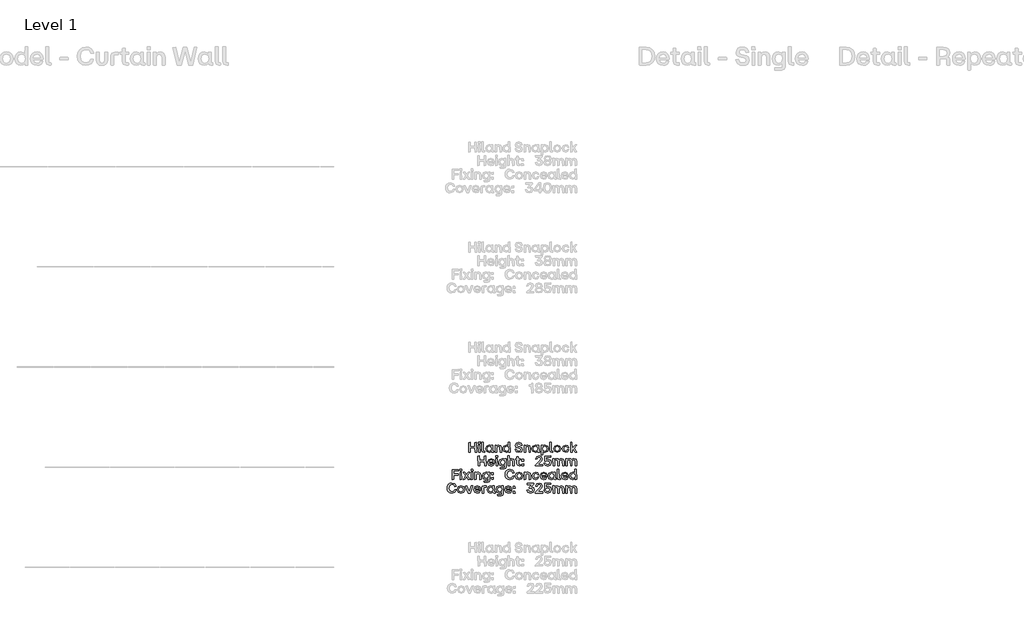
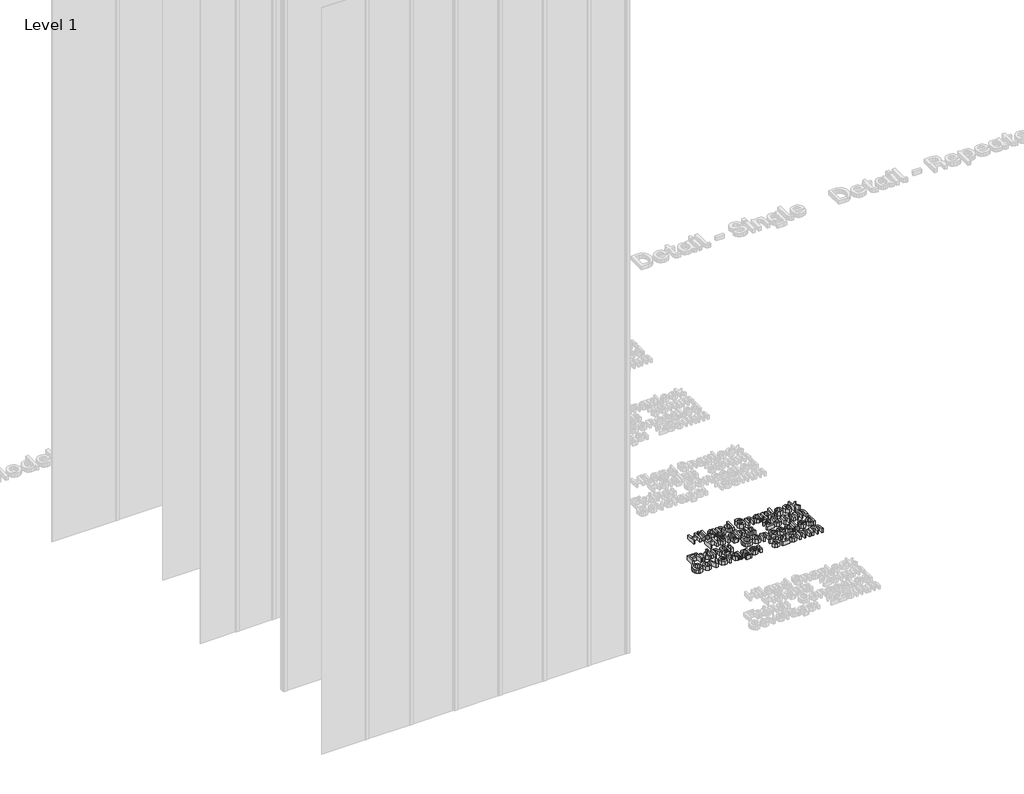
# One storey, part 18 of 64: 1 proxy.
"""IFC4 building model written with IfcOpenShell, lengths in millimetres."""

from ifc_helpers import new_model, si_unit, origin, origin_with_axes, place, context, project, spatial, polyline, outline, extrude, element, save

model = new_model("IFC4")

# Units and contexts
model_context = context("Model", 3, world=origin())
ifc_project = project(units=[si_unit("LENGTHUNIT", "METRE", prefix="MILLI")], contexts=[model_context])

# Site, building, storey
site = spatial("IfcSite", under=ifc_project)
building = spatial("IfcBuilding", under=site)
storey = spatial("IfcBuildingStorey", under=building, Name="Level 1", Elevation=0.0)

# Proxy
placement = place(None, origin())
element("IfcBuildingElementProxy", 1, Name="50mm", ObjectType="50mm", at=placement, inside=storey, context=model_context, shape_type="SweptSolid", body=[
    extrude(outline(polyline([(2488.8278866, -8433.5188866), (2488.1305548, -8411.5808277), (2464.2818068, -8411.5808277), (2464.2818068, -8432.8215548), (2456.7785164, -8433.5188866), (2456.0532913, -8384.2454206), (2463.542635, -8383.5201955), (2464.2818068, -8404.6075096), (2488.1305548, -8404.6075096), (2488.1305548, -8384.2454206), (2495.6198985, -8383.5201955), (2496.3172303, -8432.8215548), (2488.8278866, -8433.5188866)])), origin_with_axes(), (0.0, 0.0, 1.0), 20.0),
    extrude(outline(polyline([(2506.414595, -8433.5188866), (2505.6893699, -8397.8154977), (2512.8997809, -8397.1181659), (2513.5971127, -8432.8215548), (2506.414595, -8433.5188866)])), origin_with_axes(), (0.0, 0.0, 1.0), 20.0),
    extrude(outline(polyline([(2505.4801704, -8390.4516737), (2505.1315045, -8382.4044646), (2513.5273795, -8381.6652929), (2514.2665512, -8390.1030078), (2505.4801704, -8390.4516737)])), origin_with_axes(), (0.0, 0.0, 1.0), 20.0),
    extrude(outline(polyline([(2532.9968838, -8433.5188866), (2525.2983405, -8430.8690257), (2522.6484796, -8423.1565359), (2522.6484796, -8382.8228637), (2529.8588906, -8382.083692), (2530.5562224, -8427.2429003), (2537.2227146, -8427.2429003), (2537.9200464, -8432.8215548), (2532.9968838, -8433.5188866)])), origin_with_axes(), (0.0, 0.0, 1.0), 20.0),
    extrude(outline(polyline([(2558.0868825, -8433.9372857), (2546.3159214, -8428.8955767), (2541.9366776, -8415.3882594), (2546.3159214, -8401.7484491), (2558.0868825, -8396.6579269), (2564.7045614, -8398.2617901), (2569.6904839, -8402.6549805), (2570.0112565, -8397.8154977), (2577.1937742, -8397.1181659), (2577.9189993, -8427.2429003), (2581.8658973, -8427.2429003), (2582.5632291, -8432.8215548), (2576.5661755, -8433.5188866), (2571.9114857, -8432.2113895), (2570.3599224, -8428.288898), (2565.0044141, -8432.3334225), (2558.0868825, -8433.9372857)]), holes=[polyline([(2549.9978334, -8415.3882594), (2552.7522941, -8424.2792401), (2560.2765044, -8427.521833), (2567.6403283, -8424.2931867), (2570.2901892, -8415.3882594), (2567.6194084, -8406.392679), (2560.2765044, -8403.1152195), (2552.7522941, -8406.392679), (2549.9978334, -8415.3882594)])]), origin_with_axes(), (0.0, 0.0, 1.0), 20.0),
    extrude(outline(polyline([(2589.4249742, -8433.5188866), (2588.6997491, -8397.8154977), (2595.5614942, -8397.1181659), (2596.258826, -8402.6549805), (2601.4225681, -8398.1571903), (2608.0437337, -8396.6579269), (2617.6041528, -8400.8419178), (2620.916479, -8413.0870644), (2620.916479, -8432.8215548), (2613.6921214, -8433.5188866), (2612.9668963, -8413.0870644), (2611.0143672, -8405.7092939), (2604.8429806, -8403.3941522), (2598.6158075, -8405.7441604), (2596.6074919, -8413.0870644), (2596.6074919, -8432.8215548), (2589.4249742, -8433.5188866)])), origin_with_axes(), (0.0, 0.0, 1.0), 20.0),
    extrude(outline(polyline([(2643.7750158, -8433.9372857), (2632.0040548, -8428.8955767), (2627.624811, -8415.3882594), (2632.0040548, -8401.7484491), (2643.7750158, -8396.6579269), (2650.3926948, -8398.2617901), (2655.3786172, -8402.6549805), (2655.6993899, -8382.8228637), (2662.8819076, -8382.083692), (2663.6071326, -8432.8215548), (2656.7453876, -8433.5188866), (2656.0480558, -8428.0099653), (2650.6925474, -8432.3334225), (2643.7750158, -8433.9372857)]), holes=[polyline([(2635.6859668, -8415.3882594), (2638.4404275, -8424.2792401), (2645.9646377, -8427.521833), (2653.3284617, -8424.2931867), (2655.9783226, -8415.3882594), (2653.3075417, -8406.392679), (2645.9646377, -8403.1152195), (2638.4404275, -8406.392679), (2635.6859668, -8415.3882594)])]), origin_with_axes(), (0.0, 0.0, 1.0), 20.0),
    extrude(outline(polyline([(2707.7621831, -8433.9372857), (2694.1781594, -8429.823028), (2688.1950524, -8418.1078535), (2695.5588764, -8417.2989486), (2699.7219473, -8424.9417053), (2707.7621831, -8427.1034339), (2714.7145813, -8425.1160383), (2717.2040559, -8419.6001436), (2715.4816463, -8415.0186736), (2709.7147122, -8412.7383985), (2703.1179533, -8411.5808277), (2692.6370561, -8406.8180514), (2689.1434237, -8397.4668318), (2693.6202939, -8386.9022548), (2706.1164801, -8383.1017964), (2718.7102926, -8386.951068), (2724.3168404, -8397.8154977), (2716.9948564, -8398.610456), (2712.9712518, -8391.8672573), (2706.1164801, -8389.9635415), (2699.582481, -8391.706871), (2697.3300992, -8396.7973933), (2699.3384148, -8401.6299027), (2705.6283478, -8404.1612172), (2712.1832668, -8405.3048414), (2722.2806315, -8409.8932847), (2725.4046781, -8419.4606772), (2720.7116349, -8430.1019607), (2707.7621831, -8433.9372857)])), origin_with_axes(), (0.0, 0.0, 1.0), 20.0),
    extrude(outline(polyline([(2734.0236993, -8433.5188866), (2733.2984742, -8397.8154977), (2740.1602192, -8397.1181659), (2740.8575511, -8402.6549805), (2746.0212931, -8398.1571903), (2752.6424587, -8396.6579269), (2762.2028779, -8400.8419178), (2765.515204, -8413.0870644), (2765.515204, -8432.8215548), (2758.2908464, -8433.5188866), (2757.5656213, -8413.0870644), (2755.6130923, -8405.7092939), (2749.4417057, -8403.3941522), (2743.2145326, -8405.7441604), (2741.206217, -8413.0870644), (2741.206217, -8432.8215548), (2734.0236993, -8433.5188866)])), origin_with_axes(), (0.0, 0.0, 1.0), 20.0),
    extrude(outline(polyline([(2788.3737409, -8433.9372857), (2776.6027799, -8428.8955767), (2772.2235361, -8415.3882594), (2776.6027799, -8401.7484491), (2788.3737409, -8396.6579269), (2794.9914198, -8398.2617901), (2799.9773423, -8402.6549805), (2800.2981149, -8397.8154977), (2807.4806326, -8397.1181659), (2808.2058577, -8427.2429003), (2812.1527558, -8427.2429003), (2812.8500876, -8432.8215548), (2806.853034, -8433.5188866), (2802.1983441, -8432.2113895), (2800.6467808, -8428.288898), (2795.2912725, -8432.3334225), (2788.3737409, -8433.9372857)]), holes=[polyline([(2780.2846919, -8415.3882594), (2783.0391525, -8424.2792401), (2790.5633628, -8427.521833), (2797.9271868, -8424.2931867), (2800.5770477, -8415.3882594), (2797.9062668, -8406.392679), (2790.5633628, -8403.1152195), (2783.0391525, -8406.392679), (2780.2846919, -8415.3882594)])]), origin_with_axes(), (0.0, 0.0, 1.0), 20.0),
    extrude(outline(polyline([(2819.7118327, -8447.0750171), (2818.9866076, -8397.8154977), (2825.8483526, -8397.1181659), (2826.5456844, -8402.5852473), (2831.9011928, -8398.2617901), (2838.8187244, -8396.6579269), (2850.5896854, -8401.7135826), (2854.9689292, -8415.2487931), (2850.5896854, -8428.8607101), (2838.8187244, -8433.9372857), (2832.2010455, -8432.3334225), (2827.215123, -8427.9402321), (2826.8943503, -8446.3776853), (2819.7118327, -8447.0750171)]), holes=[polyline([(2826.6154176, -8415.2487931), (2829.2861985, -8424.2443735), (2836.6291025, -8427.521833), (2844.1533128, -8424.2443735), (2846.9077734, -8415.2487931), (2844.1533128, -8406.3578124), (2836.6291025, -8403.1152195), (2829.2652785, -8406.3368925), (2826.6154176, -8415.2487931)])]), origin_with_axes(), (0.0, 0.0, 1.0), 20.0),
    extrude(outline(polyline([(2872.1790784, -8433.5188866), (2864.4805352, -8430.8690257), (2861.8306743, -8423.1565359), (2861.8306743, -8382.8228637), (2869.0410852, -8382.083692), (2869.738417, -8427.2429003), (2876.4049092, -8427.2429003), (2877.102241, -8432.8215548), (2872.1790784, -8433.5188866)])), origin_with_axes(), (0.0, 0.0, 1.0), 20.0),
    extrude(outline(polyline([(2899.3192326, -8433.9372857), (2886.1605813, -8428.8118969), (2881.1188722, -8415.3882594), (2886.1745279, -8401.8530489), (2899.3192326, -8396.6579269), (2912.589457, -8401.8530489), (2917.6590593, -8415.3882594), (2912.589457, -8428.8118969), (2899.3192326, -8433.9372857)]), holes=[polyline([(2889.180028, -8415.3882594), (2891.8787021, -8424.2931867), (2899.3192326, -8427.521833), (2906.8573895, -8424.2792401), (2909.6118502, -8415.3882594), (2906.8713362, -8406.392679), (2899.3192326, -8403.1152195), (2891.8787021, -8406.392679), (2889.180028, -8415.3882594)])]), origin_with_axes(), (0.0, 0.0, 1.0), 20.0),
    extrude(outline(polyline([(2941.4101809, -8433.9372857), (2928.0771966, -8428.8955767), (2923.0703542, -8415.3882594), (2928.1469298, -8401.8530489), (2941.4101809, -8396.6579269), (2952.4838102, -8400.0957727), (2957.6998521, -8409.1820063), (2950.6846941, -8409.9490713), (2947.1143552, -8404.6493495), (2941.4101809, -8403.1152195), (2933.8511041, -8406.392679), (2931.13151, -8415.3882594), (2933.8650507, -8424.3141067), (2941.4101809, -8427.521833), (2947.2886881, -8426.0574362), (2950.266295, -8421.3155799), (2957.3511862, -8420.6461413), (2952.6930097, -8430.4994399), (2941.4101809, -8433.9372857)])), origin_with_axes(), (0.0, 0.0, 1.0), 20.0),
    extrude(outline(polyline([(2966.0957272, -8433.5188866), (2965.3705021, -8382.8228637), (2972.5809131, -8382.083692), (2973.2782449, -8412.8778649), (2988.5219183, -8397.4668318), (2996.4296611, -8397.1181659), (2983.7103288, -8412.0410667), (2997.7964315, -8432.6402485), (2990.1536748, -8433.5188866), (2978.4385003, -8417.2292154), (2973.2782449, -8422.2918444), (2973.2782449, -8432.8215548), (2966.0957272, -8433.5188866)])), origin_with_axes(), (0.0, 0.0, 1.0), 20.0),
    extrude(outline(polyline([(2536.1348769, -8501.3705811), (2535.4375451, -8479.4325222), (2511.5887971, -8479.4325222), (2511.5887971, -8500.6732493), (2504.0855067, -8501.3705811), (2503.3602816, -8452.0971151), (2510.8496253, -8451.37189), (2511.5887971, -8472.459204), (2535.4375451, -8472.459204), (2535.4375451, -8452.0971151), (2542.9268888, -8451.37189), (2543.6242206, -8500.6732493), (2536.1348769, -8501.3705811)])), origin_with_axes(), (0.0, 0.0, 1.0), 20.0),
    extrude(outline(polyline([(2569.2720848, -8501.7889802), (2555.8693673, -8496.7472711), (2550.8625249, -8483.2399539), (2555.8484473, -8469.586197), (2569.2720848, -8464.5096214), (2581.552098, -8469.5164638), (2586.0498882, -8483.1702207), (2586.0498882, -8485.0809099), (2558.9934138, -8485.8200816), (2562.0616738, -8492.8631329), (2569.2720848, -8495.3735275), (2575.0599388, -8494.0974102), (2578.0584656, -8490.520098), (2585.1433569, -8489.9343393), (2580.4851803, -8498.6998002), (2569.2720848, -8501.7889802)]), holes=[polyline([(2559.063147, -8480.0322275), (2578.2676652, -8480.0322275), (2575.6247776, -8473.3866554), (2569.2720848, -8470.966914), (2562.1802202, -8473.2681089), (2559.063147, -8480.0322275)])]), origin_with_axes(), (0.0, 0.0, 1.0), 20.0),
    extrude(outline(polyline([(2592.9534732, -8458.3033682), (2592.6048073, -8450.2561591), (2601.0006823, -8449.5169873), (2601.7398541, -8457.9547023), (2592.9534732, -8458.3033682)])), origin_with_axes(), (0.0, 0.0, 1.0), 20.0),
    extrude(outline(polyline([(2593.8878978, -8501.3705811), (2593.1626727, -8465.6671922), (2600.3730837, -8464.9698603), (2601.0704155, -8500.6732493), (2593.8878978, -8501.3705811)])), origin_with_axes(), (0.0, 0.0, 1.0), 20.0),
    extrude(outline(polyline([(2615.5609706, -8514.9267115), (2614.8217989, -8509.348057), (2636.062526, -8508.6507252), (2636.062526, -8495.7919266), (2630.7558309, -8500.185117), (2624.1381519, -8501.7889802), (2612.3671909, -8496.7124045), (2607.9879471, -8483.1004875), (2612.3671909, -8469.565277), (2624.1381519, -8464.5096214), (2631.0556835, -8466.1134845), (2636.1322591, -8470.4369418), (2636.4111919, -8465.6671922), (2643.2450437, -8464.9698603), (2643.9702687, -8504.9269733), (2641.390141, -8512.3675038), (2633.9705305, -8514.9267115), (2615.5609706, -8514.9267115)]), holes=[polyline([(2616.0491029, -8483.1004875), (2618.8035636, -8492.0960679), (2626.3277738, -8495.3735275), (2633.6706778, -8492.0960679), (2636.3414587, -8483.1004875), (2633.6915978, -8474.1885869), (2626.3277738, -8470.966914), (2618.8035636, -8474.2095069), (2616.0491029, -8483.1004875)])]), origin_with_axes(), (0.0, 0.0, 1.0), 20.0),
    extrude(outline(polyline([(2653.6910742, -8501.3705811), (2652.9658492, -8450.6745581), (2660.1762601, -8449.9353864), (2660.8735919, -8470.2277422), (2665.9606275, -8465.9391516), (2672.3098337, -8464.5096214), (2681.8702529, -8468.6936122), (2685.182579, -8480.9387589), (2685.182579, -8500.6732493), (2677.9582214, -8501.3705811), (2677.2329963, -8480.9387589), (2675.2804672, -8473.5609883), (2669.1090807, -8471.2458467), (2662.8819076, -8473.5958549), (2660.8735919, -8480.9387589), (2660.8735919, -8500.6732493), (2653.6910742, -8501.3705811)])), origin_with_axes(), (0.0, 0.0, 1.0), 20.0),
    extrude(outline(polyline([(2708.459515, -8501.3705811), (2700.7470251, -8498.7207202), (2698.0971642, -8491.0082303), (2698.0971642, -8471.2458467), (2691.890911, -8471.2458467), (2691.165686, -8465.6671922), (2698.0971642, -8464.9698603), (2698.0971642, -8454.9561755), (2705.3215218, -8454.2309504), (2706.0188536, -8464.9698603), (2714.8052345, -8464.9698603), (2715.5304596, -8470.506675), (2706.0188536, -8471.2458467), (2706.0188536, -8495.0945947), (2714.8052345, -8495.0945947), (2715.5304596, -8500.6732493), (2708.459515, -8501.3705811)])), origin_with_axes(), (0.0, 0.0, 1.0), 20.0),
    extrude(outline(polyline([(2722.9361234, -8477.7310326), (2722.2387916, -8468.1078535), (2731.7225043, -8467.3686818), (2732.4477294, -8477.0337007), (2722.9361234, -8477.7310326)])), origin_with_axes(), (0.0, 0.0, 1.0), 20.0),
    extrude(outline(polyline([(2722.5874575, -8501.0219152), (2722.2387916, -8491.747402), (2731.7225043, -8491.0082303), (2732.4477294, -8500.6732493), (2722.5874575, -8501.0219152)])), origin_with_axes(), (0.0, 0.0, 1.0), 20.0),
    extrude(outline(polyline([(2790.4238964, -8501.3705811), (2789.6986714, -8496.5868848), (2807.0622335, -8480.590093), (2814.2098846, -8472.6753769), (2816.1972803, -8465.3882594), (2814.216858, -8459.7084918), (2808.2755909, -8457.8152359), (2801.4068725, -8459.8932847), (2798.5547854, -8466.4621504), (2791.1212283, -8467.1594822), (2795.7096716, -8454.9631488), (2808.2755909, -8450.9534909), (2820.1023385, -8454.8236824), (2824.4257957, -8465.3882594), (2821.7410682, -8475.1648515), (2812.5711549, -8485.5690422), (2803.1153355, -8494.0764903), (2825.8483526, -8494.355423), (2826.5456844, -8500.6732493), (2790.4238964, -8501.3705811)])), origin_with_axes(), (0.0, 0.0, 1.0), 20.0),
    extrude(outline(polyline([(2851.8030428, -8501.7889802), (2838.6025515, -8498.0931215), (2832.7937775, -8487.3821049), (2840.1576015, -8486.5871466), (2844.365999, -8493.0200326), (2851.8030428, -8494.9551284), (2859.2087066, -8492.2704009), (2861.802781, -8484.6625108), (2859.2226533, -8477.3614467), (2851.6635764, -8474.8719721), (2841.3012256, -8478.8049235), (2836.4617428, -8478.5259908), (2837.5077406, -8452.0971151), (2867.1443427, -8451.37189), (2867.8695678, -8457.6757696), (2844.1602861, -8458.3731014), (2843.3653278, -8471.0366471), (2848.5395299, -8468.8400519), (2854.2437041, -8468.0381203), (2865.7984923, -8472.4661774), (2870.0034031, -8484.6625108), (2865.1918136, -8497.27027), (2851.8030428, -8501.7889802)])), origin_with_axes(), (0.0, 0.0, 1.0), 20.0),
    extrude(outline(polyline([(2878.6224244, -8501.3705811), (2877.8971993, -8465.6671922), (2884.7589443, -8464.9698603), (2885.4562761, -8470.506675), (2890.4421986, -8466.0088848), (2896.8925179, -8464.5096214), (2903.1789642, -8466.0088848), (2907.394335, -8470.506675), (2913.2170557, -8466.0646713), (2920.4623332, -8464.5096214), (2929.7368464, -8468.6796656), (2932.9445727, -8480.9387589), (2932.9445727, -8500.6732493), (2925.7341617, -8501.3705811), (2925.0368299, -8480.9387589), (2923.154034, -8473.5609883), (2917.1848737, -8471.2458467), (2911.2784732, -8473.5958549), (2909.3747574, -8480.9387589), (2909.3747574, -8500.6732493), (2902.1643464, -8501.3705811), (2901.4670146, -8480.9387589), (2899.5981653, -8473.5609883), (2893.6847915, -8471.2458467), (2887.7086579, -8473.5958549), (2885.804942, -8480.9387589), (2885.804942, -8500.6732493), (2878.6224244, -8501.3705811)])), origin_with_axes(), (0.0, 0.0, 1.0), 20.0),
    extrude(outline(polyline([(2941.9959397, -8501.3705811), (2941.2707146, -8465.6671922), (2948.1324596, -8464.9698603), (2948.8297914, -8470.506675), (2953.8157139, -8466.0088848), (2960.2660332, -8464.5096214), (2966.5524795, -8466.0088848), (2970.7678503, -8470.506675), (2976.590571, -8466.0646713), (2983.8358485, -8464.5096214), (2993.1103617, -8468.6796656), (2996.318088, -8480.9387589), (2996.318088, -8500.6732493), (2989.1076771, -8501.3705811), (2988.4103452, -8480.9387589), (2986.5275493, -8473.5609883), (2980.558389, -8471.2458467), (2974.6519885, -8473.5958549), (2972.7482727, -8480.9387589), (2972.7482727, -8500.6732493), (2965.5378617, -8501.3705811), (2964.8405299, -8480.9387589), (2962.9716806, -8473.5609883), (2957.0583069, -8471.2458467), (2951.0821732, -8473.5958549), (2949.1784574, -8480.9387589), (2949.1784574, -8500.6732493), (2941.9959397, -8501.3705811)])), origin_with_axes(), (0.0, 0.0, 1.0), 20.0),
    extrude(outline(polyline([(2374.6607219, -8569.2222755), (2373.9354969, -8519.9488095), (2405.5246281, -8519.2235844), (2406.2219599, -8525.527464), (2382.1640123, -8526.2247958), (2382.1640123, -8541.287163), (2404.0881245, -8541.287163), (2404.7854563, -8547.5631494), (2382.1640123, -8548.3023211), (2382.1640123, -8568.5249437), (2374.6607219, -8569.2222755)])), origin_with_axes(), (0.0, 0.0, 1.0), 20.0),
    extrude(outline(polyline([(2414.4783686, -8569.2222755), (2413.7531435, -8533.5188866), (2420.9635544, -8532.8215548), (2421.6608863, -8568.5249437), (2414.4783686, -8569.2222755)])), origin_with_axes(), (0.0, 0.0, 1.0), 20.0),
    extrude(outline(polyline([(2413.5439439, -8526.1550627), (2413.195278, -8518.1078535), (2421.5911531, -8517.3686818), (2422.3303248, -8525.8063967), (2413.5439439, -8526.1550627)])), origin_with_axes(), (0.0, 0.0, 1.0), 20.0),
    extrude(outline(polyline([(2428.5784179, -8569.2222755), (2441.3395901, -8550.7429824), (2429.1362833, -8533.658353), (2437.1277059, -8532.8215548), (2445.9140868, -8544.815662), (2454.1426022, -8533.2399539), (2462.2595445, -8532.8215548), (2450.6559431, -8549.9340775), (2463.696048, -8568.3436374), (2455.7046254, -8569.2222755), (2445.9838199, -8555.7916648), (2436.7093068, -8568.8038764), (2428.5784179, -8569.2222755)])), origin_with_axes(), (0.0, 0.0, 1.0), 20.0),
    extrude(outline(polyline([(2470.7112061, -8569.2222755), (2469.985981, -8533.5188866), (2477.196392, -8532.8215548), (2477.8937238, -8568.5249437), (2470.7112061, -8569.2222755)])), origin_with_axes(), (0.0, 0.0, 1.0), 20.0),
    extrude(outline(polyline([(2469.7767815, -8526.1550627), (2469.4281156, -8518.1078535), (2477.8239906, -8517.3686818), (2478.5631623, -8525.8063967), (2469.7767815, -8526.1550627)])), origin_with_axes(), (0.0, 0.0, 1.0), 20.0),
    extrude(outline(polyline([(2487.6703158, -8569.2222755), (2486.9450907, -8533.5188866), (2493.8068358, -8532.8215548), (2494.5041676, -8538.3583694), (2499.6679097, -8533.8605792), (2506.2890753, -8532.3613158), (2515.8494944, -8536.5453067), (2519.1618206, -8548.7904534), (2519.1618206, -8568.5249437), (2511.937463, -8569.2222755), (2511.2122379, -8548.7904534), (2509.2597088, -8541.4126828), (2503.0883222, -8539.0975411), (2496.8611491, -8541.4475493), (2494.8528335, -8548.7904534), (2494.8528335, -8568.5249437), (2487.6703158, -8569.2222755)])), origin_with_axes(), (0.0, 0.0, 1.0), 20.0),
    extrude(outline(polyline([(2533.4431761, -8582.778406), (2532.7040044, -8577.1997515), (2553.9447315, -8576.5024197), (2553.9447315, -8563.643621), (2548.6380364, -8568.0368114), (2542.0203574, -8569.6406746), (2530.2493964, -8564.564099), (2525.8701526, -8550.952182), (2530.2493964, -8537.4169715), (2542.0203574, -8532.3613158), (2548.9378891, -8533.965179), (2554.0144647, -8538.2886362), (2554.2933974, -8533.5188866), (2561.1272492, -8532.8215548), (2561.8524743, -8572.7786678), (2559.2723465, -8580.2191982), (2551.852736, -8582.778406), (2533.4431761, -8582.778406)]), holes=[polyline([(2533.9313084, -8550.952182), (2536.6857691, -8559.9477624), (2544.2099793, -8563.2252219), (2551.5528834, -8559.9477624), (2554.2236642, -8550.952182), (2551.5738033, -8542.0402814), (2544.2099793, -8538.8186084), (2536.6857691, -8542.0612013), (2533.9313084, -8550.952182)])]), origin_with_axes(), (0.0, 0.0, 1.0), 20.0),
    extrude(outline(polyline([(2570.8480547, -8568.8736096), (2570.4993888, -8559.5990965), (2579.9831014, -8558.8599248), (2580.7083265, -8568.5249437), (2570.8480547, -8568.8736096)])), origin_with_axes(), (0.0, 0.0, 1.0), 20.0),
    extrude(outline(polyline([(2571.1967206, -8545.582727), (2570.4993888, -8535.959548), (2579.9831014, -8535.2203762), (2580.7083265, -8544.8853952), (2571.1967206, -8545.582727)])), origin_with_axes(), (0.0, 0.0, 1.0), 20.0),
    extrude(outline(polyline([(2662.9516407, -8569.6406746), (2652.9449292, -8567.9269817), (2645.2394126, -8562.7859029), (2640.3232234, -8554.7160305), (2638.6844936, -8544.2159567), (2640.33717, -8533.8919591), (2645.2951992, -8525.7924501), (2653.0146624, -8520.5520015), (2662.9516407, -8518.8051853), (2677.1283965, -8523.4215219), (2684.0807947, -8535.7085085), (2676.7588107, -8536.5174134), (2671.5950686, -8528.3272513), (2662.9516407, -8525.8063967), (2651.2922528, -8530.743506), (2647.0524754, -8544.2159567), (2651.2713328, -8557.7999804), (2662.9516407, -8562.6673565), (2671.7659149, -8560.1813685), (2676.4519847, -8552.7234048), (2683.8715952, -8552.0679129), (2677.4073293, -8565.0382846), (2662.9516407, -8569.6406746)])), origin_with_axes(), (0.0, 0.0, 1.0), 20.0),
    extrude(outline(polyline([(2708.306102, -8569.6406746), (2695.1474506, -8564.5152858), (2690.1057416, -8551.0916483), (2695.1613973, -8537.5564378), (2708.306102, -8532.3613158), (2721.5763264, -8537.5564378), (2726.6459287, -8551.0916483), (2721.5763264, -8564.5152858), (2708.306102, -8569.6406746)]), holes=[polyline([(2698.1668974, -8551.0916483), (2700.8655715, -8559.9965756), (2708.306102, -8563.2252219), (2715.8442589, -8559.982629), (2718.5987195, -8551.0916483), (2715.8582055, -8542.0960679), (2708.306102, -8538.8186084), (2700.8655715, -8542.0960679), (2698.1668974, -8551.0916483)])]), origin_with_axes(), (0.0, 0.0, 1.0), 20.0),
    extrude(outline(polyline([(2734.916284, -8569.2222755), (2734.1910589, -8533.5188866), (2741.052804, -8532.8215548), (2741.7501358, -8538.3583694), (2746.9138779, -8533.8605792), (2753.5350435, -8532.3613158), (2763.0954626, -8536.5453067), (2766.4077887, -8548.7904534), (2766.4077887, -8568.5249437), (2759.1834311, -8569.2222755), (2758.4582061, -8548.7904534), (2756.505677, -8541.4126828), (2750.3342904, -8539.0975411), (2744.1071173, -8541.4475493), (2742.0988017, -8548.7904534), (2742.0988017, -8568.5249437), (2734.916284, -8569.2222755)])), origin_with_axes(), (0.0, 0.0, 1.0), 20.0),
    extrude(outline(polyline([(2791.4559475, -8569.6406746), (2778.1229632, -8564.5989656), (2773.1161208, -8551.0916483), (2778.1926964, -8537.5564378), (2791.4559475, -8532.3613158), (2802.5295767, -8535.7991616), (2807.7456187, -8544.8853952), (2800.7304607, -8545.6524602), (2797.1601218, -8540.3527384), (2791.4559475, -8538.8186084), (2783.8968707, -8542.0960679), (2781.1772766, -8551.0916483), (2783.9108173, -8560.0174956), (2791.4559475, -8563.2252219), (2797.3344547, -8561.7608251), (2800.3120616, -8557.0189688), (2807.3969528, -8556.3495302), (2802.7387763, -8566.2028288), (2791.4559475, -8569.6406746)])), origin_with_axes(), (0.0, 0.0, 1.0), 20.0),
    extrude(outline(polyline([(2831.6919932, -8569.6406746), (2818.2892758, -8564.5989656), (2813.2824333, -8551.0916483), (2818.2683558, -8537.4378914), (2831.6919932, -8532.3613158), (2843.9720065, -8537.3681582), (2848.4697967, -8551.0219152), (2848.4697967, -8552.9326043), (2821.4133223, -8553.6717761), (2824.4815823, -8560.7148274), (2831.6919932, -8563.2252219), (2837.4798473, -8561.9491047), (2840.4783741, -8558.3717925), (2847.5632653, -8557.7860338), (2842.9050888, -8566.5514947), (2831.6919932, -8569.6406746)]), holes=[polyline([(2821.4830555, -8547.883922), (2840.6875736, -8547.883922), (2838.0446861, -8541.2383498), (2831.6919932, -8538.8186084), (2824.6001287, -8541.1198034), (2821.4830555, -8547.883922)])]), origin_with_axes(), (0.0, 0.0, 1.0), 20.0),
    extrude(outline(polyline([(2869.5989507, -8569.6406746), (2857.8279896, -8564.5989656), (2853.4487458, -8551.0916483), (2857.8279896, -8537.4518381), (2869.5989507, -8532.3613158), (2876.2166296, -8533.965179), (2881.2025521, -8538.3583694), (2881.5233247, -8533.5188866), (2888.7058424, -8532.8215548), (2889.4310675, -8562.9462892), (2893.3779655, -8562.9462892), (2894.0752974, -8568.5249437), (2888.0782438, -8569.2222755), (2883.4235539, -8567.9147784), (2881.8719906, -8563.9922869), (2876.5164823, -8568.0368114), (2869.5989507, -8569.6406746)]), holes=[polyline([(2861.5099016, -8551.0916483), (2864.2643623, -8559.982629), (2871.7885726, -8563.2252219), (2879.1523965, -8559.9965756), (2881.8022574, -8551.0916483), (2879.1314766, -8542.0960679), (2871.7885726, -8538.8186084), (2864.2643623, -8542.0960679), (2861.5099016, -8551.0916483)])]), origin_with_axes(), (0.0, 0.0, 1.0), 20.0),
    extrude(outline(polyline([(2910.5602215, -8569.2222755), (2902.8616782, -8566.5724146), (2900.2118173, -8558.8599248), (2900.2118173, -8518.5262526), (2907.4222283, -8517.7870809), (2908.1195601, -8562.9462892), (2914.7860523, -8562.9462892), (2915.4833841, -8568.5249437), (2910.5602215, -8569.2222755)])), origin_with_axes(), (0.0, 0.0, 1.0), 20.0),
    extrude(outline(polyline([(2937.9095752, -8569.6406746), (2924.5068578, -8564.5989656), (2919.5000153, -8551.0916483), (2924.4859378, -8537.4378914), (2937.9095752, -8532.3613158), (2950.1895885, -8537.3681582), (2954.6873787, -8551.0219152), (2954.6873787, -8552.9326043), (2927.6309043, -8553.6717761), (2930.6991643, -8560.7148274), (2937.9095752, -8563.2252219), (2943.6974293, -8561.9491047), (2946.6959561, -8558.3717925), (2953.7808473, -8557.7860338), (2949.1226708, -8566.5514947), (2937.9095752, -8569.6406746)]), holes=[polyline([(2927.7006375, -8547.883922), (2946.9051556, -8547.883922), (2944.2622681, -8541.2383498), (2937.9095752, -8538.8186084), (2930.8177107, -8541.1198034), (2927.7006375, -8547.883922)])]), origin_with_axes(), (0.0, 0.0, 1.0), 20.0),
    extrude(outline(polyline([(2975.8165327, -8569.6406746), (2964.0455716, -8564.5989656), (2959.6663278, -8551.0916483), (2964.0455716, -8537.4518381), (2975.8165327, -8532.3613158), (2982.4342116, -8533.965179), (2987.4201341, -8538.3583694), (2987.7409067, -8518.5262526), (2994.9234244, -8517.7870809), (2995.6486495, -8568.5249437), (2988.7869044, -8569.2222755), (2988.0895726, -8563.7133542), (2982.7340643, -8568.0368114), (2975.8165327, -8569.6406746)]), holes=[polyline([(2967.7274836, -8551.0916483), (2970.4819443, -8559.982629), (2978.0061546, -8563.2252219), (2985.3699785, -8559.9965756), (2988.0198394, -8551.0916483), (2985.3490586, -8542.0960679), (2978.0061546, -8538.8186084), (2970.4819443, -8542.0960679), (2967.7274836, -8551.0916483)])]), origin_with_axes(), (0.0, 0.0, 1.0), 20.0),
    extrude(outline(polyline([(2372.8616059, -8637.4923691), (2362.8548943, -8635.7786761), (2355.1493778, -8630.6375973), (2350.2331885, -8622.5677249), (2348.5944587, -8612.0676511), (2350.2471351, -8601.7436536), (2355.2051643, -8593.6441446), (2362.9246275, -8588.403696), (2372.8616059, -8586.6568798), (2387.0383617, -8591.2732164), (2393.9907598, -8603.560203), (2386.6687758, -8604.3691079), (2381.5050337, -8596.1789457), (2372.8616059, -8593.6580912), (2361.2022179, -8598.5952004), (2356.9624405, -8612.0676511), (2361.181298, -8625.6516749), (2372.8616059, -8630.5190509), (2381.67588, -8628.033063), (2386.3619498, -8620.5750992), (2393.7815603, -8619.9196073), (2387.3172944, -8632.8899791), (2372.8616059, -8637.4923691)])), origin_with_axes(), (0.0, 0.0, 1.0), 20.0),
    extrude(outline(polyline([(2418.2160671, -8637.4923691), (2405.0574157, -8632.3669802), (2400.0157067, -8618.9433428), (2405.0713624, -8605.4081323), (2418.2160671, -8600.2130103), (2431.4862915, -8605.4081323), (2436.5558938, -8618.9433428), (2431.4862915, -8632.3669802), (2418.2160671, -8637.4923691)]), holes=[polyline([(2408.0768625, -8618.9433428), (2410.7755366, -8627.8482701), (2418.2160671, -8631.0769164), (2425.754224, -8627.8343234), (2428.5086847, -8618.9433428), (2425.7681706, -8609.9477624), (2418.2160671, -8606.6703029), (2410.7755366, -8609.9477624), (2408.0768625, -8618.9433428)])]), origin_with_axes(), (0.0, 0.0, 1.0), 20.0),
    extrude(outline(polyline([(2454.6586277, -8637.07397), (2440.2656991, -8601.5100474), (2447.5179499, -8600.6732493), (2458.9541917, -8630.5887841), (2469.7907281, -8601.2311147), (2477.1545521, -8600.6732493), (2464.0447139, -8636.5161045), (2454.6586277, -8637.07397)])), origin_with_axes(), (0.0, 0.0, 1.0), 20.0),
    extrude(outline(polyline([(2499.6504764, -8637.4923691), (2486.2477589, -8632.45066), (2481.2409165, -8618.9433428), (2486.226839, -8605.2895859), (2499.6504764, -8600.2130103), (2511.9304896, -8605.2198527), (2516.4282799, -8618.8736096), (2516.4282799, -8620.7842988), (2489.3718054, -8621.5234705), (2492.4400654, -8628.5665218), (2499.6504764, -8631.0769164), (2505.4383305, -8629.8007992), (2508.4368573, -8626.2234869), (2515.5217485, -8625.6377282), (2510.863572, -8634.4031891), (2499.6504764, -8637.4923691)]), holes=[polyline([(2489.4415386, -8615.7356165), (2508.6460568, -8615.7356165), (2506.0031692, -8609.0900443), (2499.6504764, -8606.6703029), (2492.5586118, -8608.9714978), (2489.4415386, -8615.7356165)])]), origin_with_axes(), (0.0, 0.0, 1.0), 20.0),
    extrude(outline(polyline([(2523.8897303, -8637.07397), (2523.1923985, -8610.9937601), (2525.8422594, -8603.3021902), (2533.5408026, -8600.6732493), (2543.6939538, -8600.6732493), (2544.3912856, -8606.6703029), (2531.1001412, -8607.3676347), (2531.1001412, -8636.3766382), (2523.8897303, -8637.07397)])), origin_with_axes(), (0.0, 0.0, 1.0), 20.0),
    extrude(outline(polyline([(2565.2275602, -8637.4923691), (2553.4565992, -8632.45066), (2549.0773554, -8618.9433428), (2553.4565992, -8605.3035325), (2565.2275602, -8600.2130103), (2571.8452392, -8601.8168734), (2576.8311616, -8606.2100639), (2577.1519343, -8601.3705811), (2584.334452, -8600.6732493), (2585.059677, -8630.7979836), (2589.0065751, -8630.7979836), (2589.7039069, -8636.3766382), (2583.7068533, -8637.07397), (2579.0521635, -8635.7664728), (2577.5006002, -8631.8439814), (2572.1450918, -8635.8885059), (2565.2275602, -8637.4923691)]), holes=[polyline([(2557.1385112, -8618.9433428), (2559.8929719, -8627.8343234), (2567.4171821, -8631.0769164), (2574.7810061, -8627.8482701), (2577.430867, -8618.9433428), (2574.7600861, -8609.9477624), (2567.4171821, -8606.6703029), (2559.8929719, -8609.9477624), (2557.1385112, -8618.9433428)])]), origin_with_axes(), (0.0, 0.0, 1.0), 20.0),
    extrude(outline(polyline([(2601.2796151, -8650.6301005), (2600.5404433, -8645.0514459), (2621.7811704, -8644.3541141), (2621.7811704, -8631.4953155), (2616.4744753, -8635.8885059), (2609.8567964, -8637.4923691), (2598.0858353, -8632.4157935), (2593.7065915, -8618.8038764), (2598.0858353, -8605.2686659), (2609.8567964, -8600.2130103), (2616.774328, -8601.8168734), (2621.8509036, -8606.1403307), (2622.1298363, -8601.3705811), (2628.9636881, -8600.6732493), (2629.6889132, -8640.6303622), (2627.1087855, -8648.0708927), (2619.689175, -8650.6301005), (2601.2796151, -8650.6301005)]), holes=[polyline([(2601.7677473, -8618.8038764), (2604.522208, -8627.7994568), (2612.0464183, -8631.0769164), (2619.3893223, -8627.7994568), (2622.0601031, -8618.8038764), (2619.4102422, -8609.8919758), (2612.0464183, -8606.6703029), (2604.522208, -8609.9128958), (2601.7677473, -8618.8038764)])]), origin_with_axes(), (0.0, 0.0, 1.0), 20.0),
    extrude(outline(polyline([(2654.9602181, -8637.4923691), (2641.5575007, -8632.45066), (2636.5506582, -8618.9433428), (2641.5365807, -8605.2895859), (2654.9602181, -8600.2130103), (2667.2402314, -8605.2198527), (2671.7380216, -8618.8736096), (2671.7380216, -8620.7842988), (2644.6815472, -8621.5234705), (2647.7498072, -8628.5665218), (2654.9602181, -8631.0769164), (2660.7480722, -8629.8007992), (2663.746599, -8626.2234869), (2670.8314902, -8625.6377282), (2666.1733137, -8634.4031891), (2654.9602181, -8637.4923691)]), holes=[polyline([(2644.7512804, -8615.7356165), (2663.9557985, -8615.7356165), (2661.312911, -8609.0900443), (2654.9602181, -8606.6703029), (2647.8683536, -8608.9714978), (2644.7512804, -8615.7356165)])]), origin_with_axes(), (0.0, 0.0, 1.0), 20.0),
    extrude(outline(polyline([(2679.199472, -8613.4344215), (2678.5021402, -8603.8112424), (2687.9858529, -8603.0720707), (2688.711078, -8612.7370896), (2679.199472, -8613.4344215)])), origin_with_axes(), (0.0, 0.0, 1.0), 20.0),
    extrude(outline(polyline([(2678.8508061, -8636.7253041), (2678.5021402, -8627.4507909), (2687.9858529, -8626.7116192), (2688.711078, -8636.3766382), (2678.8508061, -8636.7253041)])), origin_with_axes(), (0.0, 0.0, 1.0), 20.0),
    extrude(outline(polyline([(2766.3241089, -8637.4923691), (2752.9283648, -8633.4269246), (2747.1056441, -8621.6629369), (2754.4694681, -8620.854032), (2758.632539, -8628.4270555), (2766.3241089, -8630.6585173), (2773.4647867, -8628.2527225), (2776.1146476, -8621.6629369), (2773.3462403, -8614.7942185), (2764.6784058, -8612.5976233), (2759.2392177, -8612.5976233), (2758.5418859, -8608.5112589), (2771.9027634, -8594.355423), (2749.1976396, -8594.0764903), (2748.4724145, -8587.800504), (2782.1814344, -8587.0752789), (2782.8787662, -8591.8868684), (2769.9781276, -8605.7916648), (2780.7030909, -8610.9170536), (2784.3152697, -8621.6629369), (2779.4688136, -8633.238645), (2766.3241089, -8637.4923691)])), origin_with_axes(), (0.0, 0.0, 1.0), 20.0),
    extrude(outline(polyline([(2790.4238964, -8637.07397), (2789.6986714, -8632.2902737), (2807.0622335, -8616.2934819), (2814.2098846, -8608.3787658), (2816.1972803, -8601.0916483), (2814.216858, -8595.4118807), (2808.2755909, -8593.5186248), (2801.4068725, -8595.5966736), (2798.5547854, -8602.1655393), (2791.1212283, -8602.8628712), (2795.7096716, -8590.6665377), (2808.2755909, -8586.6568798), (2820.1023385, -8590.5270714), (2824.4257957, -8601.0916483), (2821.7410682, -8610.8682404), (2812.5711549, -8621.2724311), (2803.1153355, -8629.7798792), (2825.8483526, -8630.0588119), (2826.5456844, -8636.3766382), (2790.4238964, -8637.07397)])), origin_with_axes(), (0.0, 0.0, 1.0), 20.0),
    extrude(outline(polyline([(2851.8030428, -8637.4923691), (2838.6025515, -8633.7965104), (2832.7937775, -8623.0854938), (2840.1576015, -8622.2905355), (2844.365999, -8628.7234215), (2851.8030428, -8630.6585173), (2859.2087066, -8627.9737898), (2861.802781, -8620.3658997), (2859.2226533, -8613.0648356), (2851.6635764, -8610.575361), (2841.3012256, -8614.5083125), (2836.4617428, -8614.2293797), (2837.5077406, -8587.800504), (2867.1443427, -8587.0752789), (2867.8695678, -8593.3791585), (2844.1602861, -8594.0764903), (2843.3653278, -8606.740036), (2848.5395299, -8604.5434408), (2854.2437041, -8603.7415092), (2865.7984923, -8608.1695663), (2870.0034031, -8620.3658997), (2865.1918136, -8632.9736589), (2851.8030428, -8637.4923691)])), origin_with_axes(), (0.0, 0.0, 1.0), 20.0),
    extrude(outline(polyline([(2878.6224244, -8637.07397), (2877.8971993, -8601.3705811), (2884.7589443, -8600.6732493), (2885.4562761, -8606.2100639), (2890.4421986, -8601.7122737), (2896.8925179, -8600.2130103), (2903.1789642, -8601.7122737), (2907.394335, -8606.2100639), (2913.2170557, -8601.7680602), (2920.4623332, -8600.2130103), (2929.7368464, -8604.3830545), (2932.9445727, -8616.6421478), (2932.9445727, -8636.3766382), (2925.7341617, -8637.07397), (2925.0368299, -8616.6421478), (2923.154034, -8609.2643772), (2917.1848737, -8606.9492356), (2911.2784732, -8609.2992438), (2909.3747574, -8616.6421478), (2909.3747574, -8636.3766382), (2902.1643464, -8637.07397), (2901.4670146, -8616.6421478), (2899.5981653, -8609.2643772), (2893.6847915, -8606.9492356), (2887.7086579, -8609.2992438), (2885.804942, -8616.6421478), (2885.804942, -8636.3766382), (2878.6224244, -8637.07397)])), origin_with_axes(), (0.0, 0.0, 1.0), 20.0),
    extrude(outline(polyline([(2941.9959397, -8637.07397), (2941.2707146, -8601.3705811), (2948.1324596, -8600.6732493), (2948.8297914, -8606.2100639), (2953.8157139, -8601.7122737), (2960.2660332, -8600.2130103), (2966.5524795, -8601.7122737), (2970.7678503, -8606.2100639), (2976.590571, -8601.7680602), (2983.8358485, -8600.2130103), (2993.1103617, -8604.3830545), (2996.318088, -8616.6421478), (2996.318088, -8636.3766382), (2989.1076771, -8637.07397), (2988.4103452, -8616.6421478), (2986.5275493, -8609.2643772), (2980.558389, -8606.9492356), (2974.6519885, -8609.2992438), (2972.7482727, -8616.6421478), (2972.7482727, -8636.3766382), (2965.5378617, -8637.07397), (2964.8405299, -8616.6421478), (2962.9716806, -8609.2643772), (2957.0583069, -8606.9492356), (2951.0821732, -8609.2992438), (2949.1784574, -8616.6421478), (2949.1784574, -8636.3766382), (2941.9959397, -8637.07397)])), origin_with_axes(), (0.0, 0.0, 1.0), 20.0),
])

save(model, "model.ifc")
